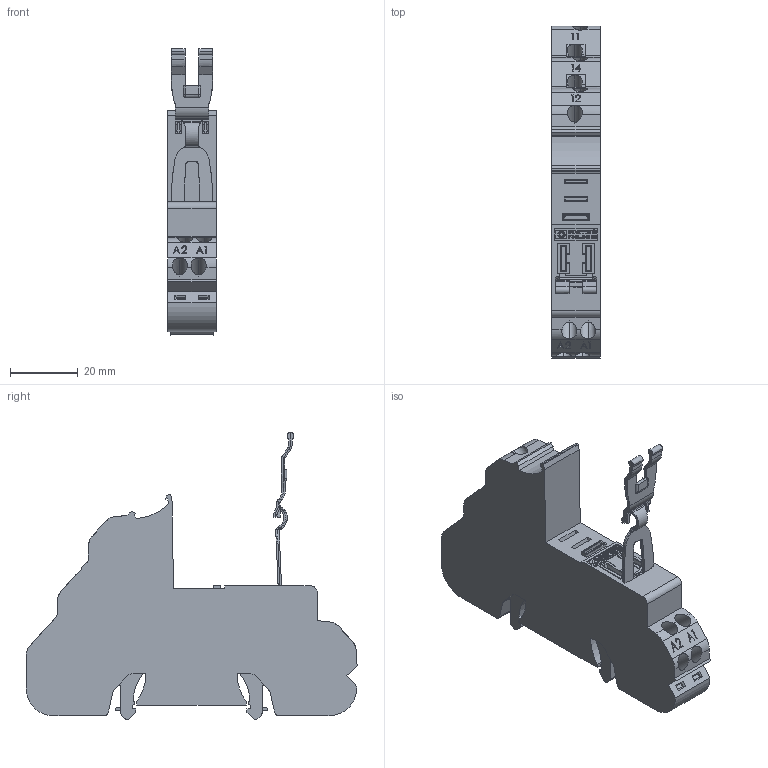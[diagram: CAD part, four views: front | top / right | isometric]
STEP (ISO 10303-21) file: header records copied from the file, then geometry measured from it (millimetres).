
FILE_DESCRIPTION (( 'STEP AP214' ), '1' );
FILE_NAME ('S10-PIR.STEP', '2024-04-09T10:44:14', ( '' ), ( '' ), 'SwSTEP 2.0', 'SolidWorks 2022', '' );
FILE_SCHEMA (( 'AUTOMOTIVE_DESIGN' ));
Length unit declared in the file: millimetre
Products named in the file (1): S10-PIR
Bounding box: 14.4 x 97.75 x 84.49 mm (x, y, z)
Volume: 51929.8 mm3; surface area: 15986.1 mm2
Topology: 1 solids, 1 shells, 781 faces, 2131 edges, 1394 vertices
Faces by surface type: plane 517, bspline 145, cylinder 111, cone 8
Entity records: 35616 total; most frequent: CARTESIAN_POINT 8600, ORIENTED_EDGE 4262, DIRECTION 3081, EDGE_CURVE 2131, VECTOR 1523, LINE 1523, VERTEX_POINT 1394, EDGE_LOOP 825
